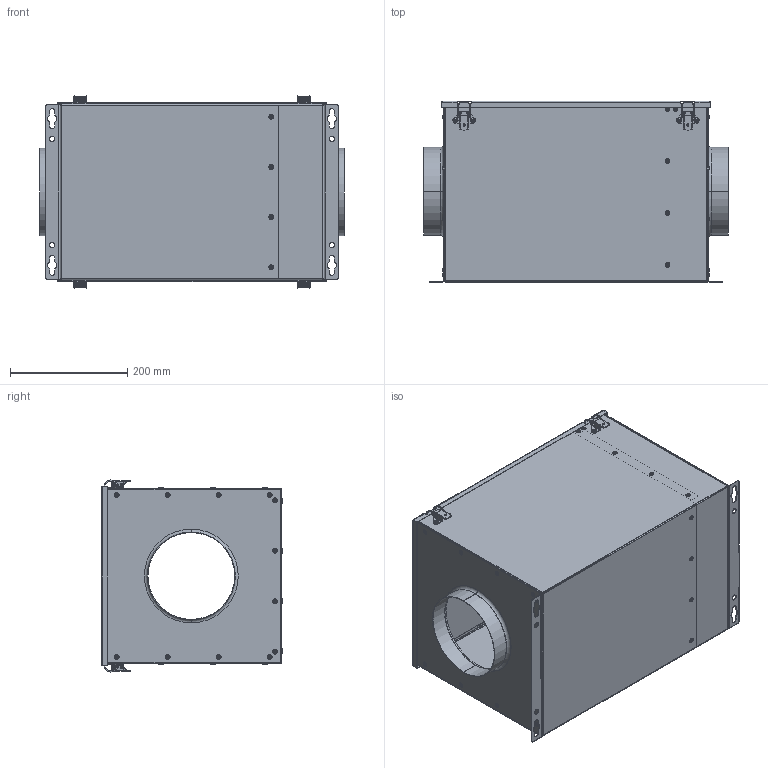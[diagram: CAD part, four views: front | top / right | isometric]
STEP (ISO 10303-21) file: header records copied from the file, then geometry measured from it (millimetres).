
FILE_DESCRIPTION (( 'STEP AP203' ), '1' );
FILE_NAME ('112842-01_FT150_step.step', '2020-08-26T08:22:57', ( '' ), ( '' ), 'SwSTEP 2.0', 'SolidWorks 2017', '' );
FILE_SCHEMA (( 'CONFIG_CONTROL_DESIGN' ));
Length unit declared in the file: millimetre
Products named in the file (1): 112842-01_FT150_step
Bounding box: 520 x 309.3 x 327.58 mm (x, y, z)
Surface area: 1454667.4 mm2 (no closed solid volume)
Topology: 0 solids, 86 shells, 805 faces, 2465 edges, 1658 vertices
Faces by surface type: cylinder 400, plane 209, torus 108, bspline 88
Entity records: 29647 total; most frequent: CARTESIAN_POINT 7049, DIRECTION 5217, ORIENTED_EDGE 4032, EDGE_CURVE 2465, AXIS2_PLACEMENT_3D 2106, VERTEX_POINT 1658, CIRCLE 1388, VECTOR 1005
